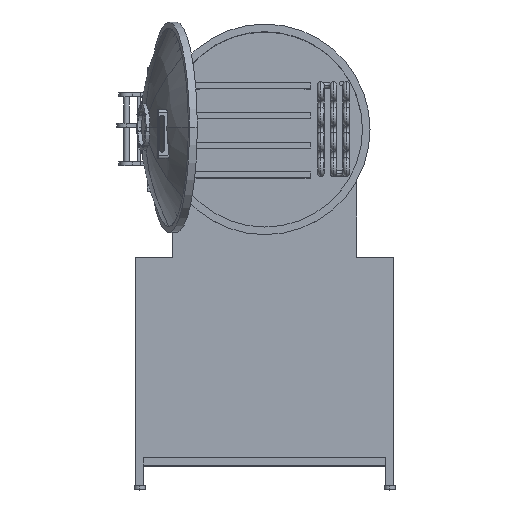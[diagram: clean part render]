
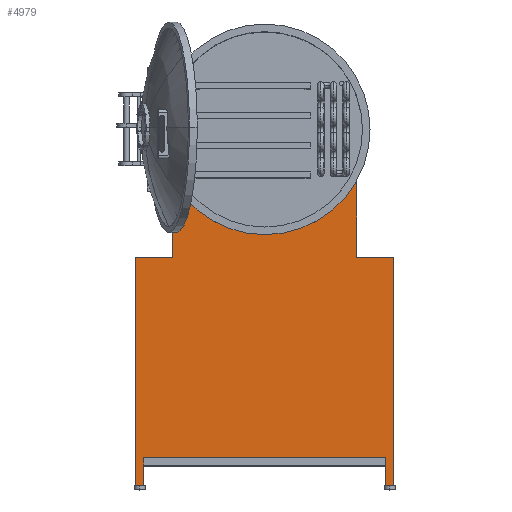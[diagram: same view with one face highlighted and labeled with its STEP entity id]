
A CAD part, top view. The second image highlights one B-rep face of the part: STEP entity #4979.
In plain terms, the highlighted planar face has unit normal (0, 0, 1).
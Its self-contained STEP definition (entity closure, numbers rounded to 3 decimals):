
#4503=CARTESIAN_POINT('Vertex',(650.,-644.076,40.)) ;
#4506=CARTESIAN_POINT('Line Origine',(650.,-1219.076,40.)) ;
#4510=CARTESIAN_POINT('Vertex',(650.,-1794.076,40.)) ;
#4867=CARTESIAN_POINT('Axis2P3D Location',(0.,0.,40.)) ;
#4872=CARTESIAN_POINT('Line Origine',(610.,-1724.076,40.)) ;
#4876=CARTESIAN_POINT('Vertex',(610.,-1794.076,40.)) ;
#4878=CARTESIAN_POINT('Vertex',(610.,-1654.076,40.)) ;
#4881=CARTESIAN_POINT('Line Origine',(630.,-1794.076,40.)) ;
#4886=CARTESIAN_POINT('Line Origine',(556.802,-644.076,40.)) ;
#4890=CARTESIAN_POINT('Vertex',(463.603,-644.076,40.)) ;
#4893=CARTESIAN_POINT('Line Origine',(463.603,-415.675,40.)) ;
#4897=CARTESIAN_POINT('Vertex',(463.603,-187.275,40.)) ;
#4901=CARTESIAN_POINT('Control Point',(463.603,-187.275,40.)) ;
#4902=CARTESIAN_POINT('Control Point',(448.422,-224.856,40.)) ;
#4903=CARTESIAN_POINT('Control Point',(429.433,-260.899,40.)) ;
#4904=CARTESIAN_POINT('Control Point',(406.843,-294.889,40.)) ;
#4905=CARTESIAN_POINT('Control Point',(355.09,-357.82,40.)) ;
#4906=CARTESIAN_POINT('Control Point',(291.765,-409.089,40.)) ;
#4907=CARTESIAN_POINT('Control Point',(257.603,-431.418,40.)) ;
#4908=CARTESIAN_POINT('Control Point',(185.229,-468.843,40.)) ;
#4909=CARTESIAN_POINT('Control Point',(106.819,-490.99,40.)) ;
#4910=CARTESIAN_POINT('Control Point',(66.62,-498.039,40.)) ;
#4911=CARTESIAN_POINT('Control Point',(-14.647,-503.894,40.)) ;
#4912=CARTESIAN_POINT('Control Point',(-95.437,-493.328,40.)) ;
#4913=CARTESIAN_POINT('Control Point',(-135.159,-483.956,40.)) ;
#4914=CARTESIAN_POINT('Control Point',(-212.15,-457.292,40.)) ;
#4915=CARTESIAN_POINT('Control Point',(-282.228,-415.727,40.)) ;
#4916=CARTESIAN_POINT('Control Point',(-315.036,-391.451,40.)) ;
#4917=CARTESIAN_POINT('Control Point',(-370.956,-340.523,40.)) ;
#4918=CARTESIAN_POINT('Control Point',(-416.338,-280.142,40.)) ;
#4919=CARTESIAN_POINT('Control Point',(-434.801,-250.531,40.)) ;
#4920=CARTESIAN_POINT('Control Point',(-450.599,-219.467,40.)) ;
#4921=CARTESIAN_POINT('Control Point',(-463.603,-187.275,40.)) ;
#4922=CARTESIAN_POINT('Vertex',(-463.603,-187.275,40.)) ;
#4925=CARTESIAN_POINT('Line Origine',(-463.603,-415.675,40.)) ;
#4929=CARTESIAN_POINT('Vertex',(-463.603,-644.076,40.)) ;
#4932=CARTESIAN_POINT('Line Origine',(-556.802,-644.076,40.)) ;
#4936=CARTESIAN_POINT('Vertex',(-650.,-644.076,40.)) ;
#4939=CARTESIAN_POINT('Line Origine',(-650.,-1219.076,40.)) ;
#4943=CARTESIAN_POINT('Vertex',(-650.,-1794.076,40.)) ;
#4946=CARTESIAN_POINT('Line Origine',(-630.,-1794.076,40.)) ;
#4950=CARTESIAN_POINT('Vertex',(-610.,-1794.076,40.)) ;
#4953=CARTESIAN_POINT('Line Origine',(-610.,-1724.076,40.)) ;
#4957=CARTESIAN_POINT('Vertex',(-610.,-1654.076,40.)) ;
#4960=CARTESIAN_POINT('Line Origine',(0.,-1654.076,40.)) ;
#4508=VECTOR('Line Direction',#4507,1.) ;
#4874=VECTOR('Line Direction',#4873,1.) ;
#4883=VECTOR('Line Direction',#4882,1.) ;
#4888=VECTOR('Line Direction',#4887,1.) ;
#4895=VECTOR('Line Direction',#4894,1.) ;
#4927=VECTOR('Line Direction',#4926,1.) ;
#4934=VECTOR('Line Direction',#4933,1.) ;
#4941=VECTOR('Line Direction',#4940,1.) ;
#4948=VECTOR('Line Direction',#4947,1.) ;
#4955=VECTOR('Line Direction',#4954,1.) ;
#4962=VECTOR('Line Direction',#4961,1.) ;
#4507=DIRECTION('Vector Direction',(0.,1.,0.)) ;
#4868=DIRECTION('Axis2P3D Direction',(0.,0.,1.)) ;
#4869=DIRECTION('Axis2P3D XDirection',(1.,0.,0.)) ;
#4873=DIRECTION('Vector Direction',(0.,1.,0.)) ;
#4882=DIRECTION('Vector Direction',(-1.,0.,0.)) ;
#4887=DIRECTION('Vector Direction',(-1.,0.,0.)) ;
#4894=DIRECTION('Vector Direction',(0.,1.,0.)) ;
#4926=DIRECTION('Vector Direction',(0.,-1.,0.)) ;
#4933=DIRECTION('Vector Direction',(-1.,0.,0.)) ;
#4940=DIRECTION('Vector Direction',(0.,1.,0.)) ;
#4947=DIRECTION('Vector Direction',(-1.,0.,0.)) ;
#4954=DIRECTION('Vector Direction',(0.,1.,0.)) ;
#4961=DIRECTION('Vector Direction',(1.,0.,0.)) ;
#4870=AXIS2_PLACEMENT_3D('Plane Axis2P3D',#4867,#4868,#4869) ;
#4509=LINE('Line',#4506,#4508) ;
#4875=LINE('Line',#4872,#4874) ;
#4884=LINE('Line',#4881,#4883) ;
#4889=LINE('Line',#4886,#4888) ;
#4896=LINE('Line',#4893,#4895) ;
#4928=LINE('Line',#4925,#4927) ;
#4935=LINE('Line',#4932,#4934) ;
#4942=LINE('Line',#4939,#4941) ;
#4949=LINE('Line',#4946,#4948) ;
#4956=LINE('Line',#4953,#4955) ;
#4963=LINE('Line',#4960,#4962) ;
#4871=PLANE('',#4870) ;
#4512=EDGE_CURVE('',#4511,#4504,#4509,.T.) ;
#4880=EDGE_CURVE('',#4877,#4879,#4875,.T.) ;
#4885=EDGE_CURVE('',#4511,#4877,#4884,.T.) ;
#4892=EDGE_CURVE('',#4504,#4891,#4889,.T.) ;
#4899=EDGE_CURVE('',#4891,#4898,#4896,.T.) ;
#4924=EDGE_CURVE('',#4898,#4923,#4900,.T.) ;
#4931=EDGE_CURVE('',#4923,#4930,#4928,.T.) ;
#4938=EDGE_CURVE('',#4930,#4937,#4935,.T.) ;
#4945=EDGE_CURVE('',#4944,#4937,#4942,.T.) ;
#4952=EDGE_CURVE('',#4951,#4944,#4949,.T.) ;
#4959=EDGE_CURVE('',#4951,#4958,#4956,.T.) ;
#4964=EDGE_CURVE('',#4879,#4958,#4963,.F.) ;
#4965=EDGE_LOOP('',(#4966,#4967,#4968,#4969,#4970,#4971,#4972,#4973,#4974,#4975,#4976,#4977)) ;
#4966=ORIENTED_EDGE('',*,*,#4880,.F.) ;
#4967=ORIENTED_EDGE('',*,*,#4885,.F.) ;
#4968=ORIENTED_EDGE('',*,*,#4512,.T.) ;
#4969=ORIENTED_EDGE('',*,*,#4892,.T.) ;
#4970=ORIENTED_EDGE('',*,*,#4899,.T.) ;
#4971=ORIENTED_EDGE('',*,*,#4924,.T.) ;
#4972=ORIENTED_EDGE('',*,*,#4931,.T.) ;
#4973=ORIENTED_EDGE('',*,*,#4938,.T.) ;
#4974=ORIENTED_EDGE('',*,*,#4945,.F.) ;
#4975=ORIENTED_EDGE('',*,*,#4952,.F.) ;
#4976=ORIENTED_EDGE('',*,*,#4959,.T.) ;
#4977=ORIENTED_EDGE('',*,*,#4964,.F.) ;
#4504=VERTEX_POINT('',#4503) ;
#4511=VERTEX_POINT('',#4510) ;
#4877=VERTEX_POINT('',#4876) ;
#4879=VERTEX_POINT('',#4878) ;
#4891=VERTEX_POINT('',#4890) ;
#4898=VERTEX_POINT('',#4897) ;
#4923=VERTEX_POINT('',#4922) ;
#4930=VERTEX_POINT('',#4929) ;
#4937=VERTEX_POINT('',#4936) ;
#4944=VERTEX_POINT('',#4943) ;
#4951=VERTEX_POINT('',#4950) ;
#4958=VERTEX_POINT('',#4957) ;
#4979=ADVANCED_FACE('Y?seklik-Ekstr?yon9',(#4978),#4871,.T.) ;
#4900=B_SPLINE_CURVE_WITH_KNOTS('',5,(#4901,#4902,#4903,#4904,#4905,#4906,#4907,#4908,#4909,#4910,#4911,#4912,#4913,#4914,#4915,#4916,#4917,#4918,#4919,#4920,#4921),.UNSPECIFIED.,.F.,.U.,(6,3,3,3,3,3,6),(0.,286.599,573.199,859.798,1146.397,1432.997,1678.5),.UNSPECIFIED.) ;
#4978=FACE_OUTER_BOUND('',#4965,.T.) ;
